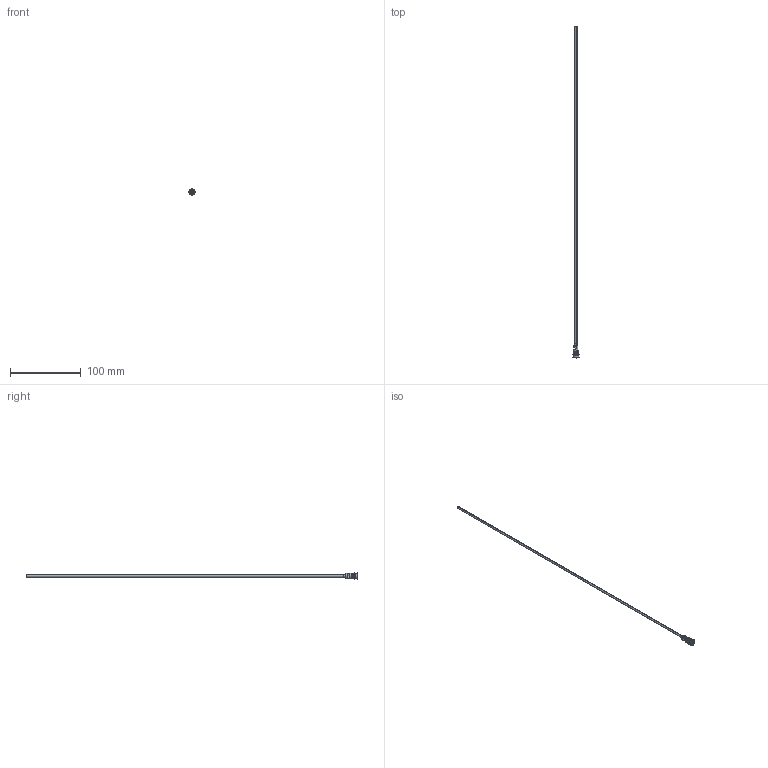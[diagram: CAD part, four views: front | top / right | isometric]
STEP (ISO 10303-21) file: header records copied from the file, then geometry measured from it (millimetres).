
FILE_DESCRIPTION (( 'STEP AP203' ), '1' );
FILE_NAME ('RF-8Fx450-3.STEP', '2015-11-25T08:50:34', ( 'Balzi' ), ( '' ), 'SwSTEP 2.0', 'SolidWorks 2015', '' );
FILE_SCHEMA (( 'CONFIG_CONTROL_DESIGN' ));
Length unit declared in the file: millimetre
Products named in the file (1): RF-8Fx450-3
Bounding box: 9 x 468 x 9 mm (x, y, z)
Volume: 1616.4 mm3; surface area: 8596.1 mm2
Topology: 1 solids, 1 shells, 77 faces, 176 edges, 108 vertices
Faces by surface type: cylinder 28, plane 25, torus 12, cone 12
Entity records: 2268 total; most frequent: DIRECTION 419, CARTESIAN_POINT 381, ORIENTED_EDGE 352, EDGE_CURVE 176, AXIS2_PLACEMENT_3D 170, VERTEX_POINT 108, CIRCLE 92, EDGE_LOOP 86
